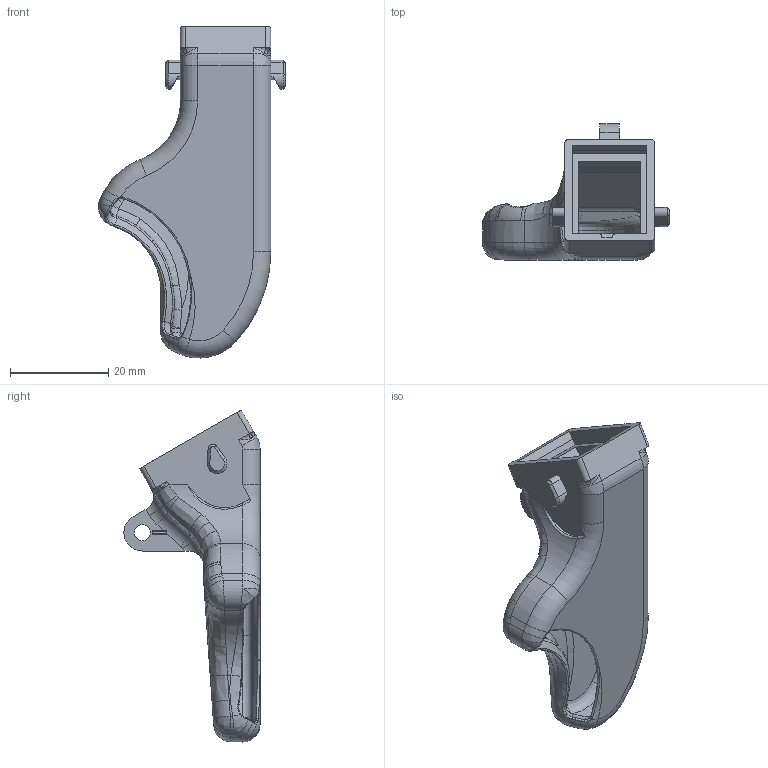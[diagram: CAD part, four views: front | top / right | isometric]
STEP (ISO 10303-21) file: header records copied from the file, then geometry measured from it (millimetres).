
FILE_DESCRIPTION(/* description */ (''),/* implementation_level */ '2;1');
FILE_NAME(/* name */ '/Users/jakeallen/Dropbox/3D Printer Fan Duct Designs/1.) Artillery Sidewinder X1/3D Models/5015 Double Ducts/VOLCANO/Volcano ALL Step Files/RH 5015 Duct.step',/* time_stamp */ '2021-03-05T21:09:18-05:00',/* author */ (''),/* organization */ (''),/* preprocessor_version */ 'ST-DEVELOPER v18.1',/* originating_system */ 'Autodesk Translation Framework v9.10.0.1330',/* authorisation */ '');
FILE_SCHEMA (('AUTOMOTIVE_DESIGN { 1 0 10303 214 3 1 1 }'));
Length unit declared in the file: millimetre
Products named in the file (1): RH 5015 Duct
Bounding box: 38.09 x 27.75 x 67.63 mm (x, y, z)
Volume: 8259.6 mm3; surface area: 8164.7 mm2
Topology: 1 solids, 1 shells, 348 faces, 860 edges, 505 vertices
Faces by surface type: bspline 144, cylinder 83, plane 66, torus 37, sphere 10, cone 8
Full cylindrical faces by diameter (mm): 3.3 x1
Entity records: 20139 total; most frequent: CARTESIAN_POINT 12480, ORIENTED_EDGE 1698, DIRECTION 1377, EDGE_CURVE 849, AXIS2_PLACEMENT_3D 570, VERTEX_POINT 505, EDGE_LOOP 354, FACE_OUTER_BOUND 348
